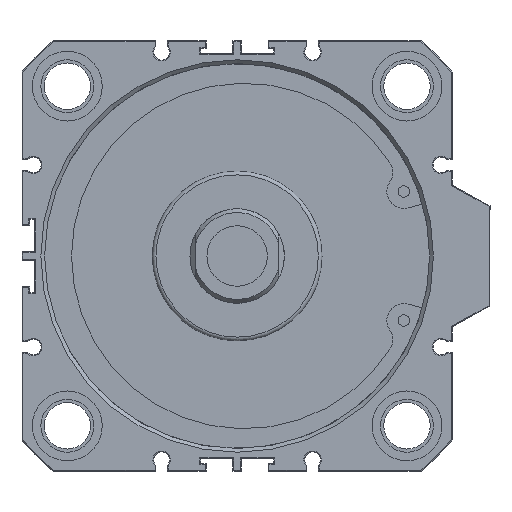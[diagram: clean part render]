
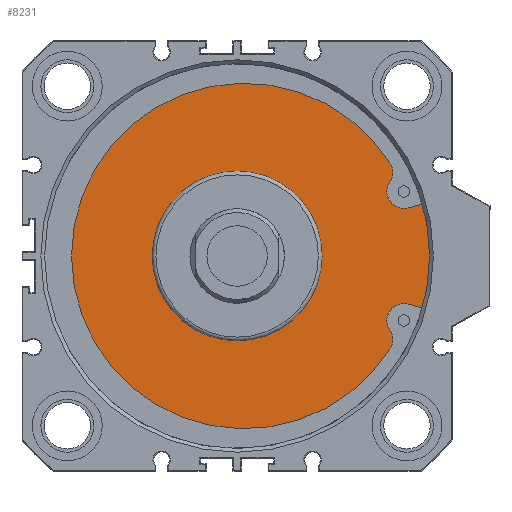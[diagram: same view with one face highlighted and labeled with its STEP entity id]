
A CAD part, front view. The second image highlights one B-rep face of the part: STEP entity #8231.
In plain terms, the highlighted planar face has unit normal (0, -1, 0).
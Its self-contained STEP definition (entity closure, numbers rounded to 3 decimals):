
#54=LINE('',#11038,#634);
#55=LINE('',#11051,#635);
#634=VECTOR('',#9353,1000.);
#635=VECTOR('',#9364,1000.);
#1291=PLANE('',#8672);
#1633=ORIENTED_EDGE('',*,*,#3147,.T.);
#1634=ORIENTED_EDGE('',*,*,#3148,.T.);
#1635=ORIENTED_EDGE('',*,*,#3149,.T.);
#1636=ORIENTED_EDGE('',*,*,#3150,.T.);
#1637=ORIENTED_EDGE('',*,*,#3151,.T.);
#1638=ORIENTED_EDGE('',*,*,#3152,.T.);
#1639=ORIENTED_EDGE('',*,*,#3153,.T.);
#1640=ORIENTED_EDGE('',*,*,#3154,.F.);
#1641=ORIENTED_EDGE('',*,*,#3143,.F.);
#3143=EDGE_CURVE('',#3919,#3919,#4379,.T.);
#3147=EDGE_CURVE('',#3923,#3924,#54,.T.);
#3148=EDGE_CURVE('',#3924,#3925,#4383,.T.);
#3149=EDGE_CURVE('',#3925,#3926,#4384,.T.);
#3150=EDGE_CURVE('',#3926,#3927,#4385,.T.);
#3151=EDGE_CURVE('',#3927,#3928,#4386,.T.);
#3152=EDGE_CURVE('',#3928,#3929,#4387,.T.);
#3153=EDGE_CURVE('',#3929,#3930,#55,.T.);
#3154=EDGE_CURVE('',#3923,#3930,#4388,.T.);
#3919=VERTEX_POINT('',#11027);
#3923=VERTEX_POINT('',#11039);
#3924=VERTEX_POINT('',#11040);
#3925=VERTEX_POINT('',#11042);
#3926=VERTEX_POINT('',#11044);
#3927=VERTEX_POINT('',#11046);
#3928=VERTEX_POINT('',#11048);
#3929=VERTEX_POINT('',#11050);
#3930=VERTEX_POINT('',#11052);
#4379=CIRCLE('',#8665,22.5);
#4383=CIRCLE('',#8673,4.5);
#4384=CIRCLE('',#8674,4.5);
#4385=CIRCLE('',#8675,45.77);
#4386=CIRCLE('',#8676,4.5);
#4387=CIRCLE('',#8677,4.5);
#4388=CIRCLE('',#8678,53.);
#4599=EDGE_LOOP('',(#1633,#1634,#1635,#1636,#1637,#1638,#1639,#1640));
#4600=EDGE_LOOP('',(#1641));
#5055=FACE_BOUND('',#4599,.T.);
#5056=FACE_BOUND('',#4600,.T.);
#8231=ADVANCED_FACE('',(#5055,#5056),#1291,.T.);
#8665=AXIS2_PLACEMENT_3D('',#11026,#9337,#9338);
#8672=AXIS2_PLACEMENT_3D('',#11037,#9351,#9352);
#8673=AXIS2_PLACEMENT_3D('',#11041,#9354,#9355);
#8674=AXIS2_PLACEMENT_3D('',#11043,#9356,#9357);
#8675=AXIS2_PLACEMENT_3D('',#11045,#9358,#9359);
#8676=AXIS2_PLACEMENT_3D('',#11047,#9360,#9361);
#8677=AXIS2_PLACEMENT_3D('',#11049,#9362,#9363);
#8678=AXIS2_PLACEMENT_3D('',#11053,#9365,#9366);
#9337=DIRECTION('',(0.,-1.,0.));
#9338=DIRECTION('',(1.,0.,0.));
#9351=DIRECTION('',(0.,-1.,0.));
#9352=DIRECTION('',(1.,0.,0.));
#9353=DIRECTION('',(-0.966,0.,-0.259));
#9354=DIRECTION('',(0.,1.,0.));
#9355=DIRECTION('',(1.,0.,0.));
#9356=DIRECTION('',(0.,-1.,0.));
#9357=DIRECTION('',(-1.,0.,0.));
#9358=DIRECTION('',(0.,-1.,0.));
#9359=DIRECTION('',(1.,0.,0.));
#9360=DIRECTION('',(0.,-1.,0.));
#9361=DIRECTION('',(-1.,0.,0.));
#9362=DIRECTION('',(0.,1.,0.));
#9363=DIRECTION('',(1.,0.,0.));
#9364=DIRECTION('',(0.966,0.,-0.259));
#9365=DIRECTION('',(0.,1.,0.));
#9366=DIRECTION('',(-1.,0.,0.));
#11026=CARTESIAN_POINT('',(0.,8.,0.));
#11027=CARTESIAN_POINT('',(22.5,8.,0.));
#11037=CARTESIAN_POINT('',(0.,8.,-53.));
#11038=CARTESIAN_POINT('',(51.039,8.,14.283));
#11039=CARTESIAN_POINT('',(51.039,8.,14.283));
#11040=CARTESIAN_POINT('',(45.35,8.,12.758));
#11041=CARTESIAN_POINT('',(44.185,8.,17.105));
#11042=CARTESIAN_POINT('',(40.45,8.,19.615));
#11043=CARTESIAN_POINT('',(36.73,8.,22.147));
#11044=CARTESIAN_POINT('',(40.642,8.,24.372));
#11045=CARTESIAN_POINT('',(1.9,8.,0.));
#11046=CARTESIAN_POINT('',(40.642,8.,-24.372));
#11047=CARTESIAN_POINT('',(36.73,8.,-22.147));
#11048=CARTESIAN_POINT('',(40.45,8.,-19.615));
#11049=CARTESIAN_POINT('',(44.185,8.,-17.105));
#11050=CARTESIAN_POINT('',(45.35,8.,-12.758));
#11051=CARTESIAN_POINT('',(45.35,8.,-12.758));
#11052=CARTESIAN_POINT('',(51.039,8.,-14.283));
#11053=CARTESIAN_POINT('',(0.,8.,0.));
